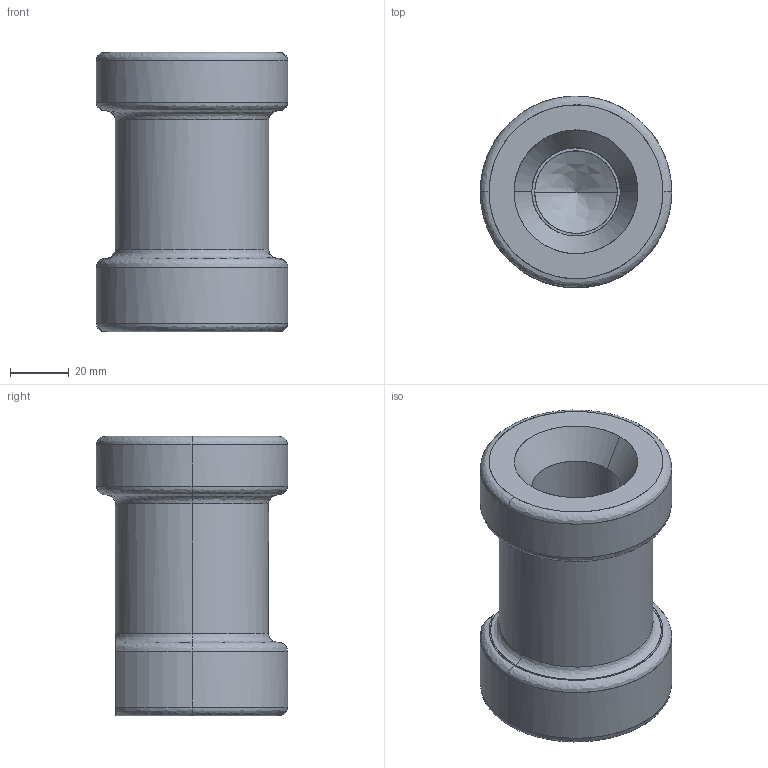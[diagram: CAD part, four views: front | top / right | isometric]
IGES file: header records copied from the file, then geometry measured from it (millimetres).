
Global section: file name: E:\UnigraphicsGraphicData\MISUMI_PRESS-PARTS\IGES\3d_csn30_03662_r00.igs; native system: NX V5.0; preprocessor: UGS NX IGES V5.0; author: MISUMI; date: 20110105.160455; units: millimetre
Bounding box: 65 x 64.96 x 95 mm (x, y, z)
Surface area: 31404.9 mm2 (no closed solid volume)
Topology: 0 solids, 0 shells, 36 faces, 280 edges, 278 vertices
Faces by surface type: bspline 36
